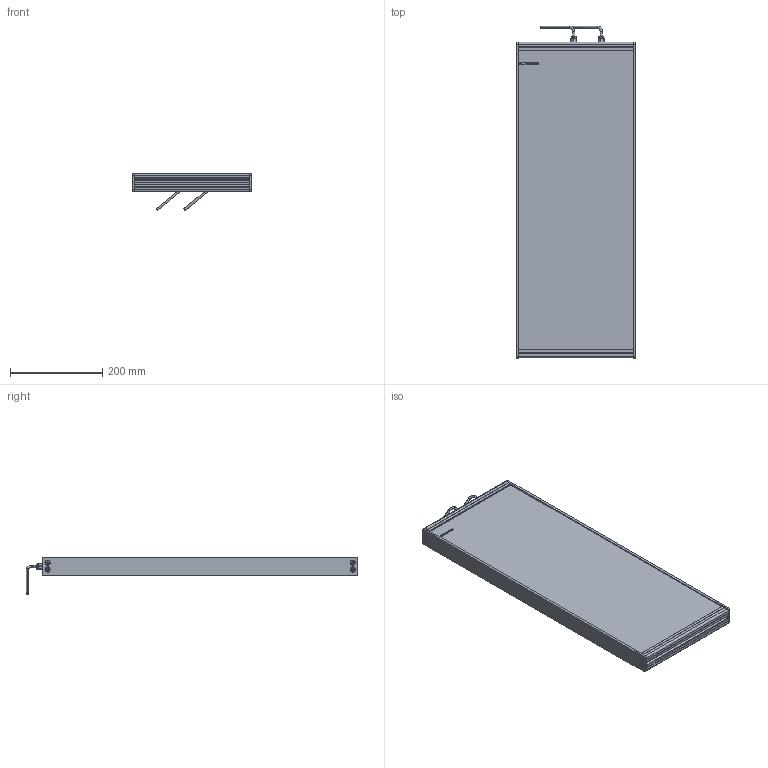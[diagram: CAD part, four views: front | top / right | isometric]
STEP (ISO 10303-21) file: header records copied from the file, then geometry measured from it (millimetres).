
FILE_DESCRIPTION (( 'STEP AP214' ), '1' );
FILE_NAME ('EFFI-BL-250T-650-2M12.STEP', '2021-06-28T09:16:08', ( '' ), ( '' ), 'SwSTEP 2.0', 'SolidWorks 2021', '' );
FILE_SCHEMA (( 'AUTOMOTIVE_DESIGN' ));
Length unit declared in the file: millimetre
Products named in the file (7): Pièce2^EFFI-BL-XXXT-YYY + 2 M12; bord fin modif_lg 436.5 mm; 003776; cordon_Avec cable; EFFI-BL-250T-650-2M12; profile modif_lg 99.5 mm
Assembly tree (15 placements, depth 2):
  EFFI-BL-250T-650-2M12
    profile modif_lg 99.5 mm
    bord fin modif_lg 436.5 mm  x2
    Pièce2^EFFI-BL-XXXT-YYY + 2 M12
    profile modif_lg 99.5 mm
    003776  x8
    cordon_Avec cable  x2
Bounding box: 260 x 721.15 x 80.73 mm (x, y, z)
Volume: 6184008.7 mm3; surface area: 596331.9 mm2
Topology: 13 solids, 25 shells, 669 faces, 1688 edges, 1082 vertices
Faces by surface type: plane 376, bspline 137, cylinder 116, cone 20, torus 20
Entity records: 16397 total; most frequent: CARTESIAN_POINT 5293, ORIENTED_EDGE 2162, DIRECTION 1887, EDGE_CURVE 1085, LINE 793, VECTOR 793, VERTEX_POINT 715, AXIS2_PLACEMENT_3D 547
